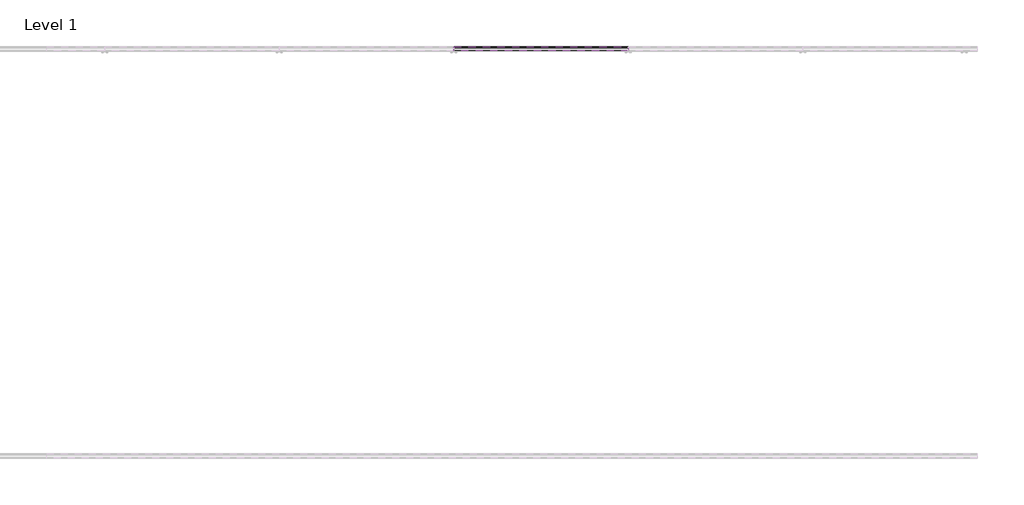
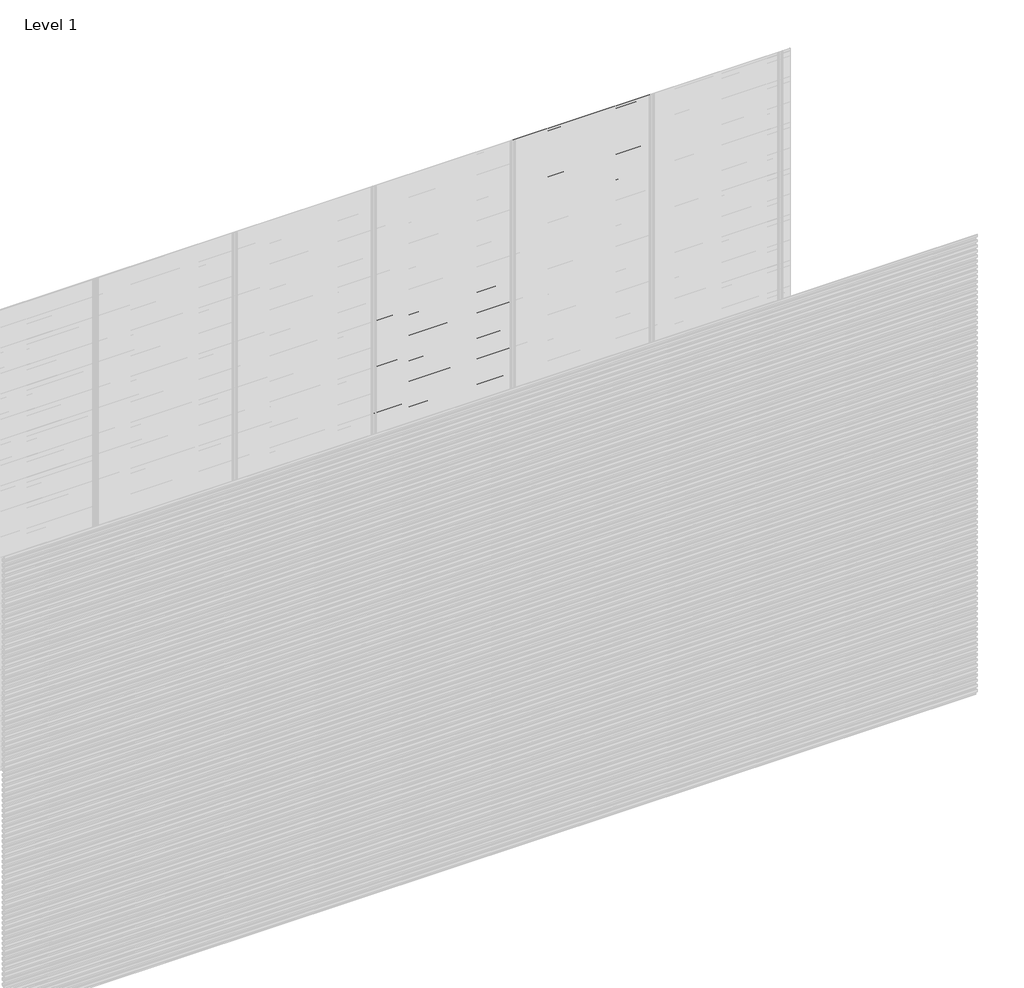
# One storey, part 94 of 96: 82 proxies.
"""IFC4 building model written with IfcOpenShell, lengths in millimetres."""

from ifc_helpers import new_model, si_unit, frame, origin, place, context, project, spatial, polyline, outline, extrude, element, save

model = new_model("IFC4")

# Units and contexts
model_context = context("Model", 3, world=origin())
ifc_project = project(units=[si_unit("LENGTHUNIT", "METRE", prefix="MILLI")], contexts=[model_context])

# Site, building, storey
site = spatial("IfcSite", under=ifc_project)
building = spatial("IfcBuilding", under=site)
storey = spatial("IfcBuildingStorey", under=building, Name="Level 1", Elevation=0.0)

# Proxies
placement = place(None, origin())
element("IfcBuildingElementProxy", 1, Name="Wall Sweeps", at=placement, inside=storey, context=model_context, shape_type="SweptSolid", body=[
    extrude(outline(polyline([(22.4, 2105.9655033), (22.4, 2091.6779188), (17.5885035, 2088.9), (17.5885035, 2090.1701706), (21.15, 2092.2264016), (21.15, 2105.2437382), (2.0, 2116.3000799), (2.0, 2131.2), (3.25, 2131.2), (3.25, 2117.0217609), (22.4, 2105.9655033)])), frame((3428.5714286, 0.0, 0.0), z_axis=(1.0, 0.0, 0.0), x_axis=(0.0, 1.0, 0.0)), (0.0, 0.0, 1.0), 857.1428571),
])
element("IfcBuildingElementProxy", 2, Name="Wall Sweeps", at=placement, inside=storey, context=model_context, shape_type="SweptSolid", body=[
    extrude(outline(polyline([(22.4, 2072.6655033), (22.4, 2058.3779188), (17.5885035, 2055.6), (17.5885035, 2056.8701706), (21.15, 2058.9264016), (21.15, 2071.9437382), (2.0, 2083.0000799), (2.0, 2097.9), (3.25, 2097.9), (3.25, 2083.7217609), (22.4, 2072.6655033)])), frame((3428.5714286, 0.0, 0.0), z_axis=(1.0, 0.0, 0.0), x_axis=(0.0, 1.0, 0.0)), (0.0, 0.0, 1.0), 857.1428571),
])
element("IfcBuildingElementProxy", 3, Name="Wall Sweeps", at=placement, inside=storey, context=model_context, shape_type="SweptSolid", body=[
    extrude(outline(polyline([(22.4, 2039.3655033), (22.4, 2025.0779188), (17.5885035, 2022.3), (17.5885035, 2023.5701706), (21.15, 2025.6264016), (21.15, 2038.6437382), (2.0, 2049.7000799), (2.0, 2064.6), (3.25, 2064.6), (3.25, 2050.4217609), (22.4, 2039.3655033)])), frame((3428.5714286, 0.0, 0.0), z_axis=(1.0, 0.0, 0.0), x_axis=(0.0, 1.0, 0.0)), (0.0, 0.0, 1.0), 857.1428571),
])
element("IfcBuildingElementProxy", 4, Name="Wall Sweeps", at=placement, inside=storey, context=model_context, shape_type="SweptSolid", body=[
    extrude(outline(polyline([(22.4, 2006.0655033), (22.4, 1991.7779188), (17.5885035, 1989.0), (17.5885035, 1990.2701706), (21.15, 1992.3264016), (21.15, 2005.3437382), (2.0, 2016.4000799), (2.0, 2031.3), (3.25, 2031.3), (3.25, 2017.1217609), (22.4, 2006.0655033)])), frame((3428.5714286, 0.0, 0.0), z_axis=(1.0, 0.0, 0.0), x_axis=(0.0, 1.0, 0.0)), (0.0, 0.0, 1.0), 857.1428571),
])
element("IfcBuildingElementProxy", 5, Name="Wall Sweeps", at=placement, inside=storey, context=model_context, shape_type="SweptSolid", body=[
    extrude(outline(polyline([(22.4, 1972.7655033), (22.4, 1958.4779188), (17.5885035, 1955.7), (17.5885035, 1956.9701706), (21.15, 1959.0264016), (21.15, 1972.0437382), (2.0, 1983.1000799), (2.0, 1998.0), (3.25, 1998.0), (3.25, 1983.8217609), (22.4, 1972.7655033)])), frame((3428.5714286, 0.0, 0.0), z_axis=(1.0, 0.0, 0.0), x_axis=(0.0, 1.0, 0.0)), (0.0, 0.0, 1.0), 857.1428571),
])
element("IfcBuildingElementProxy", 6, Name="Wall Sweeps", at=placement, inside=storey, context=model_context, shape_type="SweptSolid", body=[
    extrude(outline(polyline([(22.4, 1939.4655033), (22.4, 1925.1779188), (17.5885035, 1922.4), (17.5885035, 1923.6701706), (21.15, 1925.7264016), (21.15, 1938.7437382), (2.0, 1949.8000799), (2.0, 1964.7), (3.25, 1964.7), (3.25, 1950.5217609), (22.4, 1939.4655033)])), frame((3428.5714286, 0.0, 0.0), z_axis=(1.0, 0.0, 0.0), x_axis=(0.0, 1.0, 0.0)), (0.0, 0.0, 1.0), 857.1428571),
])
element("IfcBuildingElementProxy", 7, Name="Wall Sweeps", at=placement, inside=storey, context=model_context, shape_type="SweptSolid", body=[
    extrude(outline(polyline([(22.4, 1906.1655033), (22.4, 1891.8779188), (17.5885035, 1889.1), (17.5885035, 1890.3701706), (21.15, 1892.4264016), (21.15, 1905.4437382), (2.0, 1916.5000799), (2.0, 1931.4), (3.25, 1931.4), (3.25, 1917.2217609), (22.4, 1906.1655033)])), frame((3428.5714286, 0.0, 0.0), z_axis=(1.0, 0.0, 0.0), x_axis=(0.0, 1.0, 0.0)), (0.0, 0.0, 1.0), 857.1428571),
])
element("IfcBuildingElementProxy", 8, Name="Wall Sweeps", at=placement, inside=storey, context=model_context, shape_type="SweptSolid", body=[
    extrude(outline(polyline([(22.4, 1872.8655033), (22.4, 1858.5779188), (17.5885035, 1855.8), (17.5885035, 1857.0701706), (21.15, 1859.1264016), (21.15, 1872.1437382), (2.0, 1883.2000799), (2.0, 1898.1), (3.25, 1898.1), (3.25, 1883.9217609), (22.4, 1872.8655033)])), frame((3428.5714286, 0.0, 0.0), z_axis=(1.0, 0.0, 0.0), x_axis=(0.0, 1.0, 0.0)), (0.0, 0.0, 1.0), 857.1428571),
])
element("IfcBuildingElementProxy", 9, Name="Wall Sweeps", at=placement, inside=storey, context=model_context, shape_type="SweptSolid", body=[
    extrude(outline(polyline([(22.4, 1839.5655033), (22.4, 1825.2779188), (17.5885035, 1822.5), (17.5885035, 1823.7701706), (21.15, 1825.8264016), (21.15, 1838.8437382), (2.0, 1849.9000799), (2.0, 1864.8), (3.25, 1864.8), (3.25, 1850.6217609), (22.4, 1839.5655033)])), frame((3428.5714286, 0.0, 0.0), z_axis=(1.0, 0.0, 0.0), x_axis=(0.0, 1.0, 0.0)), (0.0, 0.0, 1.0), 857.1428571),
])
element("IfcBuildingElementProxy", 10, Name="Wall Sweeps", at=placement, inside=storey, context=model_context, shape_type="SweptSolid", body=[
    extrude(outline(polyline([(22.4, 1806.2655033), (22.4, 1791.9779188), (17.5885035, 1789.2), (17.5885035, 1790.4701706), (21.15, 1792.5264016), (21.15, 1805.5437382), (2.0, 1816.6000799), (2.0, 1831.5), (3.25, 1831.5), (3.25, 1817.3217609), (22.4, 1806.2655033)])), frame((3428.5714286, 0.0, 0.0), z_axis=(1.0, 0.0, 0.0), x_axis=(0.0, 1.0, 0.0)), (0.0, 0.0, 1.0), 857.1428571),
])
element("IfcBuildingElementProxy", 11, Name="Wall Sweeps", at=placement, inside=storey, context=model_context, shape_type="SweptSolid", body=[
    extrude(outline(polyline([(22.4, 1772.9655033), (22.4, 1758.6779188), (17.5885035, 1755.9), (17.5885035, 1757.1701706), (21.15, 1759.2264016), (21.15, 1772.2437382), (2.0, 1783.3000799), (2.0, 1798.2), (3.25, 1798.2), (3.25, 1784.0217609), (22.4, 1772.9655033)])), frame((3428.5714286, 0.0, 0.0), z_axis=(1.0, 0.0, 0.0), x_axis=(0.0, 1.0, 0.0)), (0.0, 0.0, 1.0), 857.1428571),
])
element("IfcBuildingElementProxy", 12, Name="Wall Sweeps", at=placement, inside=storey, context=model_context, shape_type="SweptSolid", body=[
    extrude(outline(polyline([(22.4, 1739.6655033), (22.4, 1725.3779188), (17.5885035, 1722.6), (17.5885035, 1723.8701706), (21.15, 1725.9264016), (21.15, 1738.9437382), (2.0, 1750.0000799), (2.0, 1764.9), (3.25, 1764.9), (3.25, 1750.7217609), (22.4, 1739.6655033)])), frame((3428.5714286, 0.0, 0.0), z_axis=(1.0, 0.0, 0.0), x_axis=(0.0, 1.0, 0.0)), (0.0, 0.0, 1.0), 857.1428571),
])
element("IfcBuildingElementProxy", 13, Name="Wall Sweeps", at=placement, inside=storey, context=model_context, shape_type="SweptSolid", body=[
    extrude(outline(polyline([(22.4, 1706.3655033), (22.4, 1692.0779188), (17.5885035, 1689.3), (17.5885035, 1690.5701706), (21.15, 1692.6264016), (21.15, 1705.6437382), (2.0, 1716.7000799), (2.0, 1731.6), (3.25, 1731.6), (3.25, 1717.4217609), (22.4, 1706.3655033)])), frame((3428.5714286, 0.0, 0.0), z_axis=(1.0, 0.0, 0.0), x_axis=(0.0, 1.0, 0.0)), (0.0, 0.0, 1.0), 857.1428571),
])
element("IfcBuildingElementProxy", 14, Name="Wall Sweeps", at=placement, inside=storey, context=model_context, shape_type="SweptSolid", body=[
    extrude(outline(polyline([(22.4, 1673.0655033), (22.4, 1658.7779188), (17.5885035, 1656.0), (17.5885035, 1657.2701706), (21.15, 1659.3264016), (21.15, 1672.3437382), (2.0, 1683.4000799), (2.0, 1698.3), (3.25, 1698.3), (3.25, 1684.1217609), (22.4, 1673.0655033)])), frame((3428.5714286, 0.0, 0.0), z_axis=(1.0, 0.0, 0.0), x_axis=(0.0, 1.0, 0.0)), (0.0, 0.0, 1.0), 857.1428571),
])
element("IfcBuildingElementProxy", 15, Name="Wall Sweeps", at=placement, inside=storey, context=model_context, shape_type="SweptSolid", body=[
    extrude(outline(polyline([(22.4, 1639.7655033), (22.4, 1625.4779188), (17.5885035, 1622.7), (17.5885035, 1623.9701706), (21.15, 1626.0264016), (21.15, 1639.0437382), (2.0, 1650.1000799), (2.0, 1665.0), (3.25, 1665.0), (3.25, 1650.8217609), (22.4, 1639.7655033)])), frame((3428.5714286, 0.0, 0.0), z_axis=(1.0, 0.0, 0.0), x_axis=(0.0, 1.0, 0.0)), (0.0, 0.0, 1.0), 857.1428571),
])
element("IfcBuildingElementProxy", 16, Name="Wall Sweeps", at=placement, inside=storey, context=model_context, shape_type="SweptSolid", body=[
    extrude(outline(polyline([(22.4, 1606.4655033), (22.4, 1592.1779188), (17.5885035, 1589.4), (17.5885035, 1590.6701706), (21.15, 1592.7264016), (21.15, 1605.7437382), (2.0, 1616.8000799), (2.0, 1631.7), (3.25, 1631.7), (3.25, 1617.5217609), (22.4, 1606.4655033)])), frame((3428.5714286, 0.0, 0.0), z_axis=(1.0, 0.0, 0.0), x_axis=(0.0, 1.0, 0.0)), (0.0, 0.0, 1.0), 857.1428571),
])
element("IfcBuildingElementProxy", 17, Name="Wall Sweeps", at=placement, inside=storey, context=model_context, shape_type="SweptSolid", body=[
    extrude(outline(polyline([(22.4, 1573.1655033), (22.4, 1558.8779188), (17.5885035, 1556.1), (17.5885035, 1557.3701706), (21.15, 1559.4264016), (21.15, 1572.4437382), (2.0, 1583.5000799), (2.0, 1598.4), (3.25, 1598.4), (3.25, 1584.2217609), (22.4, 1573.1655033)])), frame((3428.5714286, 0.0, 0.0), z_axis=(1.0, 0.0, 0.0), x_axis=(0.0, 1.0, 0.0)), (0.0, 0.0, 1.0), 857.1428571),
])
element("IfcBuildingElementProxy", 18, Name="Wall Sweeps", at=placement, inside=storey, context=model_context, shape_type="SweptSolid", body=[
    extrude(outline(polyline([(22.4, 1539.8655033), (22.4, 1525.5779188), (17.5885035, 1522.8), (17.5885035, 1524.0701706), (21.15, 1526.1264016), (21.15, 1539.1437382), (2.0, 1550.2000799), (2.0, 1565.1), (3.25, 1565.1), (3.25, 1550.9217609), (22.4, 1539.8655033)])), frame((3428.5714286, 0.0, 0.0), z_axis=(1.0, 0.0, 0.0), x_axis=(0.0, 1.0, 0.0)), (0.0, 0.0, 1.0), 857.1428571),
])
element("IfcBuildingElementProxy", 19, Name="Wall Sweeps", at=placement, inside=storey, context=model_context, shape_type="SweptSolid", body=[
    extrude(outline(polyline([(22.4, 1506.5655033), (22.4, 1492.2779188), (17.5885035, 1489.5), (17.5885035, 1490.7701706), (21.15, 1492.8264016), (21.15, 1505.8437382), (2.0, 1516.9000799), (2.0, 1531.8), (3.25, 1531.8), (3.25, 1517.6217609), (22.4, 1506.5655033)])), frame((3428.5714286, 0.0, 0.0), z_axis=(1.0, 0.0, 0.0), x_axis=(0.0, 1.0, 0.0)), (0.0, 0.0, 1.0), 857.1428571),
])
element("IfcBuildingElementProxy", 20, Name="Wall Sweeps", at=placement, inside=storey, context=model_context, shape_type="SweptSolid", body=[
    extrude(outline(polyline([(22.4, 1473.2655033), (22.4, 1458.9779188), (17.5885035, 1456.2), (17.5885035, 1457.4701706), (21.15, 1459.5264016), (21.15, 1472.5437382), (2.0, 1483.6000799), (2.0, 1498.5), (3.25, 1498.5), (3.25, 1484.3217609), (22.4, 1473.2655033)])), frame((3428.5714286, 0.0, 0.0), z_axis=(1.0, 0.0, 0.0), x_axis=(0.0, 1.0, 0.0)), (0.0, 0.0, 1.0), 857.1428571),
])
element("IfcBuildingElementProxy", 21, Name="Wall Sweeps", at=placement, inside=storey, context=model_context, shape_type="SweptSolid", body=[
    extrude(outline(polyline([(22.4, 1439.9655033), (22.4, 1425.6779188), (17.5885035, 1422.9), (17.5885035, 1424.1701706), (21.15, 1426.2264016), (21.15, 1439.2437382), (2.0, 1450.3000799), (2.0, 1465.2), (3.25, 1465.2), (3.25, 1451.0217609), (22.4, 1439.9655033)])), frame((3428.5714286, 0.0, 0.0), z_axis=(1.0, 0.0, 0.0), x_axis=(0.0, 1.0, 0.0)), (0.0, 0.0, 1.0), 857.1428571),
])
element("IfcBuildingElementProxy", 22, Name="Wall Sweeps", at=placement, inside=storey, context=model_context, shape_type="SweptSolid", body=[
    extrude(outline(polyline([(22.4, 1406.6655033), (22.4, 1392.3779188), (17.5885035, 1389.6), (17.5885035, 1390.8701706), (21.15, 1392.9264016), (21.15, 1405.9437382), (2.0, 1417.0000799), (2.0, 1431.9), (3.25, 1431.9), (3.25, 1417.7217609), (22.4, 1406.6655033)])), frame((3428.5714286, 0.0, 0.0), z_axis=(1.0, 0.0, 0.0), x_axis=(0.0, 1.0, 0.0)), (0.0, 0.0, 1.0), 857.1428571),
])
element("IfcBuildingElementProxy", 23, Name="Wall Sweeps", at=placement, inside=storey, context=model_context, shape_type="SweptSolid", body=[
    extrude(outline(polyline([(22.4, 1373.3655033), (22.4, 1359.0779188), (17.5885035, 1356.3), (17.5885035, 1357.5701706), (21.15, 1359.6264016), (21.15, 1372.6437382), (2.0, 1383.7000799), (2.0, 1398.6), (3.25, 1398.6), (3.25, 1384.4217609), (22.4, 1373.3655033)])), frame((3428.5714286, 0.0, 0.0), z_axis=(1.0, 0.0, 0.0), x_axis=(0.0, 1.0, 0.0)), (0.0, 0.0, 1.0), 857.1428571),
])
element("IfcBuildingElementProxy", 24, Name="Wall Sweeps", at=placement, inside=storey, context=model_context, shape_type="SweptSolid", body=[
    extrude(outline(polyline([(22.4, 1340.0655033), (22.4, 1325.7779188), (17.5885035, 1323.0), (17.5885035, 1324.2701706), (21.15, 1326.3264016), (21.15, 1339.3437382), (2.0, 1350.4000799), (2.0, 1365.3), (3.25, 1365.3), (3.25, 1351.1217609), (22.4, 1340.0655033)])), frame((3428.5714286, 0.0, 0.0), z_axis=(1.0, 0.0, 0.0), x_axis=(0.0, 1.0, 0.0)), (0.0, 0.0, 1.0), 857.1428571),
])
element("IfcBuildingElementProxy", 25, Name="Wall Sweeps", at=placement, inside=storey, context=model_context, shape_type="SweptSolid", body=[
    extrude(outline(polyline([(22.4, 1306.7655033), (22.4, 1292.4779188), (17.5885035, 1289.7), (17.5885035, 1290.9701706), (21.15, 1293.0264016), (21.15, 1306.0437382), (2.0, 1317.1000799), (2.0, 1332.0), (3.25, 1332.0), (3.25, 1317.8217609), (22.4, 1306.7655033)])), frame((3428.5714286, 0.0, 0.0), z_axis=(1.0, 0.0, 0.0), x_axis=(0.0, 1.0, 0.0)), (0.0, 0.0, 1.0), 857.1428571),
])
element("IfcBuildingElementProxy", 26, Name="Wall Sweeps", at=placement, inside=storey, context=model_context, shape_type="SweptSolid", body=[
    extrude(outline(polyline([(22.4, 1273.4655033), (22.4, 1259.1779188), (17.5885035, 1256.4), (17.5885035, 1257.6701706), (21.15, 1259.7264016), (21.15, 1272.7437382), (2.0, 1283.8000799), (2.0, 1298.7), (3.25, 1298.7), (3.25, 1284.5217609), (22.4, 1273.4655033)])), frame((3428.5714286, 0.0, 0.0), z_axis=(1.0, 0.0, 0.0), x_axis=(0.0, 1.0, 0.0)), (0.0, 0.0, 1.0), 857.1428571),
])
element("IfcBuildingElementProxy", 27, Name="Wall Sweeps", at=placement, inside=storey, context=model_context, shape_type="SweptSolid", body=[
    extrude(outline(polyline([(22.4, 1240.1655033), (22.4, 1225.8779188), (17.5885035, 1223.1), (17.5885035, 1224.3701706), (21.15, 1226.4264016), (21.15, 1239.4437382), (2.0, 1250.5000799), (2.0, 1265.4), (3.25, 1265.4), (3.25, 1251.2217609), (22.4, 1240.1655033)])), frame((3428.5714286, 0.0, 0.0), z_axis=(1.0, 0.0, 0.0), x_axis=(0.0, 1.0, 0.0)), (0.0, 0.0, 1.0), 857.1428571),
])
element("IfcBuildingElementProxy", 28, Name="Wall Sweeps", at=placement, inside=storey, context=model_context, shape_type="SweptSolid", body=[
    extrude(outline(polyline([(22.4, 1206.8655033), (22.4, 1192.5779188), (17.5885035, 1189.8), (17.5885035, 1191.0701706), (21.15, 1193.1264016), (21.15, 1206.1437382), (2.0, 1217.2000799), (2.0, 1232.1), (3.25, 1232.1), (3.25, 1217.9217609), (22.4, 1206.8655033)])), frame((3428.5714286, 0.0, 0.0), z_axis=(1.0, 0.0, 0.0), x_axis=(0.0, 1.0, 0.0)), (0.0, 0.0, 1.0), 857.1428571),
])
element("IfcBuildingElementProxy", 29, Name="Wall Sweeps", at=placement, inside=storey, context=model_context, shape_type="SweptSolid", body=[
    extrude(outline(polyline([(22.4, 1173.5655033), (22.4, 1159.2779188), (17.5885035, 1156.5), (17.5885035, 1157.7701706), (21.15, 1159.8264016), (21.15, 1172.8437382), (2.0, 1183.9000799), (2.0, 1198.8), (3.25, 1198.8), (3.25, 1184.6217609), (22.4, 1173.5655033)])), frame((3428.5714286, 0.0, 0.0), z_axis=(1.0, 0.0, 0.0), x_axis=(0.0, 1.0, 0.0)), (0.0, 0.0, 1.0), 857.1428571),
])
element("IfcBuildingElementProxy", 30, Name="Wall Sweeps", at=placement, inside=storey, context=model_context, shape_type="SweptSolid", body=[
    extrude(outline(polyline([(22.4, 1140.2655033), (22.4, 1125.9779188), (17.5885035, 1123.2), (17.5885035, 1124.4701706), (21.15, 1126.5264016), (21.15, 1139.5437382), (2.0, 1150.6000799), (2.0, 1165.5), (3.25, 1165.5), (3.25, 1151.3217609), (22.4, 1140.2655033)])), frame((3428.5714286, 0.0, 0.0), z_axis=(1.0, 0.0, 0.0), x_axis=(0.0, 1.0, 0.0)), (0.0, 0.0, 1.0), 857.1428571),
])
element("IfcBuildingElementProxy", 31, Name="Wall Sweeps", at=placement, inside=storey, context=model_context, shape_type="SweptSolid", body=[
    extrude(outline(polyline([(22.4, 1106.9655033), (22.4, 1092.6779188), (17.5885035, 1089.9), (17.5885035, 1091.1701706), (21.15, 1093.2264016), (21.15, 1106.2437382), (2.0, 1117.3000799), (2.0, 1132.2), (3.25, 1132.2), (3.25, 1118.0217609), (22.4, 1106.9655033)])), frame((3428.5714286, 0.0, 0.0), z_axis=(1.0, 0.0, 0.0), x_axis=(0.0, 1.0, 0.0)), (0.0, 0.0, 1.0), 857.1428571),
])
element("IfcBuildingElementProxy", 32, Name="Wall Sweeps", at=placement, inside=storey, context=model_context, shape_type="SweptSolid", body=[
    extrude(outline(polyline([(22.4, 1073.6655033), (22.4, 1059.3779188), (17.5885035, 1056.6), (17.5885035, 1057.8701706), (21.15, 1059.9264016), (21.15, 1072.9437382), (2.0, 1084.0000799), (2.0, 1098.9), (3.25, 1098.9), (3.25, 1084.7217609), (22.4, 1073.6655033)])), frame((3428.5714286, 0.0, 0.0), z_axis=(1.0, 0.0, 0.0), x_axis=(0.0, 1.0, 0.0)), (0.0, 0.0, 1.0), 857.1428571),
])
element("IfcBuildingElementProxy", 33, Name="Wall Sweeps", at=placement, inside=storey, context=model_context, shape_type="SweptSolid", body=[
    extrude(outline(polyline([(22.4, 1040.3655033), (22.4, 1026.0779188), (17.5885035, 1023.3), (17.5885035, 1024.5701706), (21.15, 1026.6264016), (21.15, 1039.6437382), (2.0, 1050.7000799), (2.0, 1065.6), (3.25, 1065.6), (3.25, 1051.4217609), (22.4, 1040.3655033)])), frame((3428.5714286, 0.0, 0.0), z_axis=(1.0, 0.0, 0.0), x_axis=(0.0, 1.0, 0.0)), (0.0, 0.0, 1.0), 857.1428571),
])
element("IfcBuildingElementProxy", 34, Name="Wall Sweeps", at=placement, inside=storey, context=model_context, shape_type="SweptSolid", body=[
    extrude(outline(polyline([(22.4, 1007.0655033), (22.4, 992.7779188), (17.5885035, 990.0), (17.5885035, 991.2701706), (21.15, 993.3264016), (21.15, 1006.3437382), (2.0, 1017.4000799), (2.0, 1032.3), (3.25, 1032.3), (3.25, 1018.1217609), (22.4, 1007.0655033)])), frame((3428.5714286, 0.0, 0.0), z_axis=(1.0, 0.0, 0.0), x_axis=(0.0, 1.0, 0.0)), (0.0, 0.0, 1.0), 857.1428571),
])
element("IfcBuildingElementProxy", 35, Name="Wall Sweeps", at=placement, inside=storey, context=model_context, shape_type="SweptSolid", body=[
    extrude(outline(polyline([(22.4, 973.7655033), (22.4, 959.4779188), (17.5885035, 956.7), (17.5885035, 957.9701706), (21.15, 960.0264016), (21.15, 973.0437382), (2.0, 984.1000799), (2.0, 999.0), (3.25, 999.0), (3.25, 984.8217609), (22.4, 973.7655033)])), frame((3428.5714286, 0.0, 0.0), z_axis=(1.0, 0.0, 0.0), x_axis=(0.0, 1.0, 0.0)), (0.0, 0.0, 1.0), 857.1428571),
])
element("IfcBuildingElementProxy", 36, Name="Wall Sweeps", at=placement, inside=storey, context=model_context, shape_type="SweptSolid", body=[
    extrude(outline(polyline([(22.4, 940.4655033), (22.4, 926.1779188), (17.5885035, 923.4), (17.5885035, 924.6701706), (21.15, 926.7264016), (21.15, 939.7437382), (2.0, 950.8000799), (2.0, 965.7), (3.25, 965.7), (3.25, 951.5217609), (22.4, 940.4655033)])), frame((3428.5714286, 0.0, 0.0), z_axis=(1.0, 0.0, 0.0), x_axis=(0.0, 1.0, 0.0)), (0.0, 0.0, 1.0), 857.1428571),
])
element("IfcBuildingElementProxy", 37, Name="Wall Sweeps", at=placement, inside=storey, context=model_context, shape_type="SweptSolid", body=[
    extrude(outline(polyline([(22.4, 907.1655033), (22.4, 892.8779188), (17.5885035, 890.1), (17.5885035, 891.3701706), (21.15, 893.4264016), (21.15, 906.4437382), (2.0, 917.5000799), (2.0, 932.4), (3.25, 932.4), (3.25, 918.2217609), (22.4, 907.1655033)])), frame((3428.5714286, 0.0, 0.0), z_axis=(1.0, 0.0, 0.0), x_axis=(0.0, 1.0, 0.0)), (0.0, 0.0, 1.0), 857.1428571),
])
element("IfcBuildingElementProxy", 38, Name="Wall Sweeps", at=placement, inside=storey, context=model_context, shape_type="SweptSolid", body=[
    extrude(outline(polyline([(22.4, 873.8655033), (22.4, 859.5779188), (17.5885035, 856.8), (17.5885035, 858.0701706), (21.15, 860.1264016), (21.15, 873.1437382), (2.0, 884.2000799), (2.0, 899.1), (3.25, 899.1), (3.25, 884.9217609), (22.4, 873.8655033)])), frame((3428.5714286, 0.0, 0.0), z_axis=(1.0, 0.0, 0.0), x_axis=(0.0, 1.0, 0.0)), (0.0, 0.0, 1.0), 857.1428571),
])
element("IfcBuildingElementProxy", 39, Name="Wall Sweeps", at=placement, inside=storey, context=model_context, shape_type="SweptSolid", body=[
    extrude(outline(polyline([(22.4, 840.5655033), (22.4, 826.2779188), (17.5885035, 823.5), (17.5885035, 824.7701706), (21.15, 826.8264016), (21.15, 839.8437382), (2.0, 850.9000799), (2.0, 865.8), (3.25, 865.8), (3.25, 851.6217609), (22.4, 840.5655033)])), frame((3428.5714286, 0.0, 0.0), z_axis=(1.0, 0.0, 0.0), x_axis=(0.0, 1.0, 0.0)), (0.0, 0.0, 1.0), 857.1428571),
])
element("IfcBuildingElementProxy", 40, Name="Wall Sweeps", at=placement, inside=storey, context=model_context, shape_type="SweptSolid", body=[
    extrude(outline(polyline([(22.4, 807.2655033), (22.4, 792.9779188), (17.5885035, 790.2), (17.5885035, 791.4701706), (21.15, 793.5264016), (21.15, 806.5437382), (2.0, 817.6000799), (2.0, 832.5), (3.25, 832.5), (3.25, 818.3217609), (22.4, 807.2655033)])), frame((3428.5714286, 0.0, 0.0), z_axis=(1.0, 0.0, 0.0), x_axis=(0.0, 1.0, 0.0)), (0.0, 0.0, 1.0), 857.1428571),
])
element("IfcBuildingElementProxy", 41, Name="Wall Sweeps", at=placement, inside=storey, context=model_context, shape_type="SweptSolid", body=[
    extrude(outline(polyline([(22.4, 773.9655033), (22.4, 759.6779188), (17.5885035, 756.9), (17.5885035, 758.1701706), (21.15, 760.2264016), (21.15, 773.2437382), (2.0, 784.3000799), (2.0, 799.2), (3.25, 799.2), (3.25, 785.0217609), (22.4, 773.9655033)])), frame((3428.5714286, 0.0, 0.0), z_axis=(1.0, 0.0, 0.0), x_axis=(0.0, 1.0, 0.0)), (0.0, 0.0, 1.0), 857.1428571),
])
element("IfcBuildingElementProxy", 42, Name="Wall Sweeps", at=placement, inside=storey, context=model_context, shape_type="SweptSolid", body=[
    extrude(outline(polyline([(22.4, 740.6655033), (22.4, 726.3779188), (17.5885035, 723.6), (17.5885035, 724.8701706), (21.15, 726.9264016), (21.15, 739.9437382), (2.0, 751.0000799), (2.0, 765.9), (3.25, 765.9), (3.25, 751.7217609), (22.4, 740.6655033)])), frame((3428.5714286, 0.0, 0.0), z_axis=(1.0, 0.0, 0.0), x_axis=(0.0, 1.0, 0.0)), (0.0, 0.0, 1.0), 857.1428571),
])
element("IfcBuildingElementProxy", 43, Name="Wall Sweeps", at=placement, inside=storey, context=model_context, shape_type="SweptSolid", body=[
    extrude(outline(polyline([(22.4, 707.3655033), (22.4, 693.0779188), (17.5885035, 690.3), (17.5885035, 691.5701706), (21.15, 693.6264016), (21.15, 706.6437382), (2.0, 717.7000799), (2.0, 732.6), (3.25, 732.6), (3.25, 718.4217609), (22.4, 707.3655033)])), frame((3428.5714286, 0.0, 0.0), z_axis=(1.0, 0.0, 0.0), x_axis=(0.0, 1.0, 0.0)), (0.0, 0.0, 1.0), 857.1428571),
])
element("IfcBuildingElementProxy", 44, Name="Wall Sweeps", at=placement, inside=storey, context=model_context, shape_type="SweptSolid", body=[
    extrude(outline(polyline([(22.4, 674.0655033), (22.4, 659.7779188), (17.5885035, 657.0), (17.5885035, 658.2701706), (21.15, 660.3264016), (21.15, 673.3437382), (2.0, 684.4000799), (2.0, 699.3), (3.25, 699.3), (3.25, 685.1217609), (22.4, 674.0655033)])), frame((3428.5714286, 0.0, 0.0), z_axis=(1.0, 0.0, 0.0), x_axis=(0.0, 1.0, 0.0)), (0.0, 0.0, 1.0), 857.1428571),
])
element("IfcBuildingElementProxy", 45, Name="Wall Sweeps", at=placement, inside=storey, context=model_context, shape_type="SweptSolid", body=[
    extrude(outline(polyline([(22.4, 640.7655033), (22.4, 626.4779188), (17.5885035, 623.7), (17.5885035, 624.9701706), (21.15, 627.0264016), (21.15, 640.0437382), (2.0, 651.1000799), (2.0, 666.0), (3.25, 666.0), (3.25, 651.8217609), (22.4, 640.7655033)])), frame((3428.5714286, 0.0, 0.0), z_axis=(1.0, 0.0, 0.0), x_axis=(0.0, 1.0, 0.0)), (0.0, 0.0, 1.0), 857.1428571),
])
element("IfcBuildingElementProxy", 46, Name="Wall Sweeps", at=placement, inside=storey, context=model_context, shape_type="SweptSolid", body=[
    extrude(outline(polyline([(22.4, 607.4655033), (22.4, 593.1779188), (17.5885035, 590.4), (17.5885035, 591.6701706), (21.15, 593.7264016), (21.15, 606.7437382), (2.0, 617.8000799), (2.0, 632.7), (3.25, 632.7), (3.25, 618.5217609), (22.4, 607.4655033)])), frame((3428.5714286, 0.0, 0.0), z_axis=(1.0, 0.0, 0.0), x_axis=(0.0, 1.0, 0.0)), (0.0, 0.0, 1.0), 857.1428571),
])
element("IfcBuildingElementProxy", 47, Name="Wall Sweeps", at=placement, inside=storey, context=model_context, shape_type="SweptSolid", body=[
    extrude(outline(polyline([(22.4, 574.1655033), (22.4, 559.8779188), (17.5885035, 557.1), (17.5885035, 558.3701706), (21.15, 560.4264016), (21.15, 573.4437382), (2.0, 584.5000799), (2.0, 599.4), (3.25, 599.4), (3.25, 585.2217609), (22.4, 574.1655033)])), frame((3428.5714286, 0.0, 0.0), z_axis=(1.0, 0.0, 0.0), x_axis=(0.0, 1.0, 0.0)), (0.0, 0.0, 1.0), 857.1428571),
])
element("IfcBuildingElementProxy", 48, Name="Wall Sweeps", at=placement, inside=storey, context=model_context, shape_type="SweptSolid", body=[
    extrude(outline(polyline([(22.4, 540.8655033), (22.4, 526.5779188), (17.5885035, 523.8), (17.5885035, 525.0701706), (21.15, 527.1264016), (21.15, 540.1437382), (2.0, 551.2000799), (2.0, 566.1), (3.25, 566.1), (3.25, 551.9217609), (22.4, 540.8655033)])), frame((3428.5714286, 0.0, 0.0), z_axis=(1.0, 0.0, 0.0), x_axis=(0.0, 1.0, 0.0)), (0.0, 0.0, 1.0), 857.1428571),
])
element("IfcBuildingElementProxy", 49, Name="Wall Sweeps", at=placement, inside=storey, context=model_context, shape_type="SweptSolid", body=[
    extrude(outline(polyline([(22.4, 507.5655033), (22.4, 493.2779188), (17.5885035, 490.5), (17.5885035, 491.7701706), (21.15, 493.8264016), (21.15, 506.8437382), (2.0, 517.9000799), (2.0, 532.8), (3.25, 532.8), (3.25, 518.6217609), (22.4, 507.5655033)])), frame((3428.5714286, 0.0, 0.0), z_axis=(1.0, 0.0, 0.0), x_axis=(0.0, 1.0, 0.0)), (0.0, 0.0, 1.0), 857.1428571),
])
element("IfcBuildingElementProxy", 50, Name="Wall Sweeps", at=placement, inside=storey, context=model_context, shape_type="SweptSolid", body=[
    extrude(outline(polyline([(22.4, 474.2655033), (22.4, 459.9779188), (17.5885035, 457.2), (17.5885035, 458.4701706), (21.15, 460.5264016), (21.15, 473.5437382), (2.0, 484.6000799), (2.0, 499.5), (3.25, 499.5), (3.25, 485.3217609), (22.4, 474.2655033)])), frame((3428.5714286, 0.0, 0.0), z_axis=(1.0, 0.0, 0.0), x_axis=(0.0, 1.0, 0.0)), (0.0, 0.0, 1.0), 857.1428571),
])
element("IfcBuildingElementProxy", 51, Name="Wall Sweeps", at=placement, inside=storey, context=model_context, shape_type="SweptSolid", body=[
    extrude(outline(polyline([(22.4, 440.9655033), (22.4, 426.6779188), (17.5885035, 423.9), (17.5885035, 425.1701706), (21.15, 427.2264016), (21.15, 440.2437382), (2.0, 451.3000799), (2.0, 466.2), (3.25, 466.2), (3.25, 452.0217609), (22.4, 440.9655033)])), frame((3428.5714286, 0.0, 0.0), z_axis=(1.0, 0.0, 0.0), x_axis=(0.0, 1.0, 0.0)), (0.0, 0.0, 1.0), 857.1428571),
])
element("IfcBuildingElementProxy", 52, Name="Wall Sweeps", at=placement, inside=storey, context=model_context, shape_type="SweptSolid", body=[
    extrude(outline(polyline([(22.4, 407.6655033), (22.4, 393.3779188), (17.5885035, 390.6), (17.5885035, 391.8701706), (21.15, 393.9264016), (21.15, 406.9437382), (2.0, 418.0000799), (2.0, 432.9), (3.25, 432.9), (3.25, 418.7217609), (22.4, 407.6655033)])), frame((3428.5714286, 0.0, 0.0), z_axis=(1.0, 0.0, 0.0), x_axis=(0.0, 1.0, 0.0)), (0.0, 0.0, 1.0), 857.1428571),
])
element("IfcBuildingElementProxy", 53, Name="Wall Sweeps", at=placement, inside=storey, context=model_context, shape_type="SweptSolid", body=[
    extrude(outline(polyline([(22.4, 374.3655033), (22.4, 360.0779188), (17.5885035, 357.3), (17.5885035, 358.5701706), (21.15, 360.6264016), (21.15, 373.6437382), (2.0, 384.7000799), (2.0, 399.6), (3.25, 399.6), (3.25, 385.4217609), (22.4, 374.3655033)])), frame((3428.5714286, 0.0, 0.0), z_axis=(1.0, 0.0, 0.0), x_axis=(0.0, 1.0, 0.0)), (0.0, 0.0, 1.0), 857.1428571),
])
element("IfcBuildingElementProxy", 54, Name="Wall Sweeps", at=placement, inside=storey, context=model_context, shape_type="SweptSolid", body=[
    extrude(outline(polyline([(22.4, 341.0655033), (22.4, 326.7779188), (17.5885035, 324.0), (17.5885035, 325.2701706), (21.15, 327.3264016), (21.15, 340.3437382), (2.0, 351.4000799), (2.0, 366.3), (3.25, 366.3), (3.25, 352.1217609), (22.4, 341.0655033)])), frame((3428.5714286, 0.0, 0.0), z_axis=(1.0, 0.0, 0.0), x_axis=(0.0, 1.0, 0.0)), (0.0, 0.0, 1.0), 857.1428571),
])
element("IfcBuildingElementProxy", 55, Name="Wall Sweeps", at=placement, inside=storey, context=model_context, shape_type="SweptSolid", body=[
    extrude(outline(polyline([(22.4, 307.7655033), (22.4, 293.4779188), (17.5885035, 290.7), (17.5885035, 291.9701706), (21.15, 294.0264016), (21.15, 307.0437382), (2.0, 318.1000799), (2.0, 333.0), (3.25, 333.0), (3.25, 318.8217609), (22.4, 307.7655033)])), frame((3428.5714286, 0.0, 0.0), z_axis=(1.0, 0.0, 0.0), x_axis=(0.0, 1.0, 0.0)), (0.0, 0.0, 1.0), 857.1428571),
])
element("IfcBuildingElementProxy", 56, Name="Wall Sweeps", at=placement, inside=storey, context=model_context, shape_type="SweptSolid", body=[
    extrude(outline(polyline([(22.4, 274.4655033), (22.4, 260.1779188), (17.5885035, 257.4), (17.5885035, 258.6701706), (21.15, 260.7264016), (21.15, 273.7437382), (2.0, 284.8000799), (2.0, 299.7), (3.25, 299.7), (3.25, 285.5217609), (22.4, 274.4655033)])), frame((3428.5714286, 0.0, 0.0), z_axis=(1.0, 0.0, 0.0), x_axis=(0.0, 1.0, 0.0)), (0.0, 0.0, 1.0), 857.1428571),
])
element("IfcBuildingElementProxy", 57, Name="Wall Sweeps", at=placement, inside=storey, context=model_context, shape_type="SweptSolid", body=[
    extrude(outline(polyline([(22.4, 241.1655033), (22.4, 226.8779188), (17.5885035, 224.1), (17.5885035, 225.3701706), (21.15, 227.4264016), (21.15, 240.4437382), (2.0, 251.5000799), (2.0, 266.4), (3.25, 266.4), (3.25, 252.2217609), (22.4, 241.1655033)])), frame((3428.5714286, 0.0, 0.0), z_axis=(1.0, 0.0, 0.0), x_axis=(0.0, 1.0, 0.0)), (0.0, 0.0, 1.0), 857.1428571),
])
element("IfcBuildingElementProxy", 58, Name="Wall Sweeps", at=placement, inside=storey, context=model_context, shape_type="SweptSolid", body=[
    extrude(outline(polyline([(22.4, 207.8655033), (22.4, 193.5779188), (17.5885035, 190.8), (17.5885035, 192.0701706), (21.15, 194.1264016), (21.15, 207.1437382), (2.0, 218.2000799), (2.0, 233.1), (3.25, 233.1), (3.25, 218.9217609), (22.4, 207.8655033)])), frame((3428.5714286, 0.0, 0.0), z_axis=(1.0, 0.0, 0.0), x_axis=(0.0, 1.0, 0.0)), (0.0, 0.0, 1.0), 857.1428571),
])
element("IfcBuildingElementProxy", 59, Name="Wall Sweeps", at=placement, inside=storey, context=model_context, shape_type="SweptSolid", body=[
    extrude(outline(polyline([(22.4, 174.5655033), (22.4, 160.2779188), (17.5885035, 157.5), (17.5885035, 158.7701706), (21.15, 160.8264016), (21.15, 173.8437382), (2.0, 184.9000799), (2.0, 199.8), (3.25, 199.8), (3.25, 185.6217609), (22.4, 174.5655033)])), frame((3428.5714286, 0.0, 0.0), z_axis=(1.0, 0.0, 0.0), x_axis=(0.0, 1.0, 0.0)), (0.0, 0.0, 1.0), 857.1428571),
])
element("IfcBuildingElementProxy", 60, Name="Wall Sweeps", at=placement, inside=storey, context=model_context, shape_type="SweptSolid", body=[
    extrude(outline(polyline([(22.4, 141.2655033), (22.4, 126.9779188), (17.5885035, 124.2), (17.5885035, 125.4701706), (21.15, 127.5264016), (21.15, 140.5437382), (2.0, 151.6000799), (2.0, 166.5), (3.25, 166.5), (3.25, 152.3217609), (22.4, 141.2655033)])), frame((3428.5714286, 0.0, 0.0), z_axis=(1.0, 0.0, 0.0), x_axis=(0.0, 1.0, 0.0)), (0.0, 0.0, 1.0), 857.1428571),
])
element("IfcBuildingElementProxy", 61, Name="Wall Sweeps", at=placement, inside=storey, context=model_context, shape_type="SweptSolid", body=[
    extrude(outline(polyline([(22.4, 107.9655033), (22.4, 93.6779188), (17.5885035, 90.9), (17.5885035, 92.1701706), (21.15, 94.2264016), (21.15, 107.2437382), (2.0, 118.3000799), (2.0, 133.2), (3.25, 133.2), (3.25, 119.0217609), (22.4, 107.9655033)])), frame((3428.5714286, 0.0, 0.0), z_axis=(1.0, 0.0, 0.0), x_axis=(0.0, 1.0, 0.0)), (0.0, 0.0, 1.0), 857.1428571),
])
element("IfcBuildingElementProxy", 62, Name="Wall Sweeps", at=placement, inside=storey, context=model_context, shape_type="SweptSolid", body=[
    extrude(outline(polyline([(22.4, 74.6655033), (22.4, 60.3779188), (17.5885035, 57.6), (17.5885035, 58.8701706), (21.15, 60.9264016), (21.15, 73.9437382), (2.0, 85.0000799), (2.0, 99.9), (3.25, 99.9), (3.25, 85.7217609), (22.4, 74.6655033)])), frame((3428.5714286, 0.0, 0.0), z_axis=(1.0, 0.0, 0.0), x_axis=(0.0, 1.0, 0.0)), (0.0, 0.0, 1.0), 857.1428571),
])
element("IfcBuildingElementProxy", 63, Name="Wall Sweeps", at=placement, inside=storey, context=model_context, shape_type="SweptSolid", body=[
    extrude(outline(polyline([(22.4, 41.3655033), (22.4, 27.0779188), (17.5885035, 24.3), (17.5885035, 25.5701706), (21.15, 27.6264016), (21.15, 40.6437382), (2.0, 51.7000799), (2.0, 66.6), (3.25, 66.6), (3.25, 52.4217609), (22.4, 41.3655033)])), frame((3428.5714286, 0.0, 0.0), z_axis=(1.0, 0.0, 0.0), x_axis=(0.0, 1.0, 0.0)), (0.0, 0.0, 1.0), 857.1428571),
])
element("IfcBuildingElementProxy", 64, Name="Wall Sweeps", at=placement, inside=storey, context=model_context, shape_type="SweptSolid", body=[
    extrude(outline(polyline([(22.4, 8.0655033), (22.4, -6.2220812), (17.5885035, -9.0), (17.5885035, -7.7298294), (21.15, -5.6735984), (21.15, 7.3437382), (2.0, 18.4000799), (2.0, 33.3), (3.25, 33.3), (3.25, 19.1217609), (22.4, 8.0655033)])), frame((3428.5714286, 0.0, 0.0), z_axis=(1.0, 0.0, 0.0), x_axis=(0.0, 1.0, 0.0)), (0.0, 0.0, 1.0), 857.1428571),
])
element("IfcBuildingElementProxy", 65, Name="Wall Sweeps", at=placement, inside=storey, context=model_context, shape_type="SweptSolid", body=[
    extrude(outline(polyline([(22.4, 2971.7655033), (22.4, 2957.4779188), (17.5885035, 2954.7), (17.5885035, 2955.9701706), (21.15, 2958.0264016), (21.15, 2971.0437382), (2.0, 2982.1000799), (2.0, 2997.0), (3.25, 2997.0), (3.25, 2982.8217609), (22.4, 2971.7655033)])), frame((4285.7142857, 0.0, 0.0), z_axis=(1.0, 0.0, 0.0), x_axis=(0.0, 1.0, 0.0)), (0.0, 0.0, 1.0), 857.1428571),
])
element("IfcBuildingElementProxy", 66, Name="Wall Sweeps", at=placement, inside=storey, context=model_context, shape_type="SweptSolid", body=[
    extrude(outline(polyline([(22.4, 2938.4655033), (22.4, 2924.1779188), (17.5885035, 2921.4), (17.5885035, 2922.6701706), (21.15, 2924.7264016), (21.15, 2937.7437382), (2.0, 2948.8000799), (2.0, 2963.7), (3.25, 2963.7), (3.25, 2949.5217609), (22.4, 2938.4655033)])), frame((4285.7142857, 0.0, 0.0), z_axis=(1.0, 0.0, 0.0), x_axis=(0.0, 1.0, 0.0)), (0.0, 0.0, 1.0), 857.1428571),
])
element("IfcBuildingElementProxy", 67, Name="Wall Sweeps", at=placement, inside=storey, context=model_context, shape_type="SweptSolid", body=[
    extrude(outline(polyline([(22.4, 2905.1655033), (22.4, 2890.8779188), (17.5885035, 2888.1), (17.5885035, 2889.3701706), (21.15, 2891.4264016), (21.15, 2904.4437382), (2.0, 2915.5000799), (2.0, 2930.4), (3.25, 2930.4), (3.25, 2916.2217609), (22.4, 2905.1655033)])), frame((4285.7142857, 0.0, 0.0), z_axis=(1.0, 0.0, 0.0), x_axis=(0.0, 1.0, 0.0)), (0.0, 0.0, 1.0), 857.1428571),
])
element("IfcBuildingElementProxy", 68, Name="Wall Sweeps", at=placement, inside=storey, context=model_context, shape_type="SweptSolid", body=[
    extrude(outline(polyline([(22.4, 2871.8655033), (22.4, 2857.5779188), (17.5885035, 2854.8), (17.5885035, 2856.0701706), (21.15, 2858.1264016), (21.15, 2871.1437382), (2.0, 2882.2000799), (2.0, 2897.1), (3.25, 2897.1), (3.25, 2882.9217609), (22.4, 2871.8655033)])), frame((4285.7142857, 0.0, 0.0), z_axis=(1.0, 0.0, 0.0), x_axis=(0.0, 1.0, 0.0)), (0.0, 0.0, 1.0), 857.1428571),
])
element("IfcBuildingElementProxy", 69, Name="Wall Sweeps", at=placement, inside=storey, context=model_context, shape_type="SweptSolid", body=[
    extrude(outline(polyline([(22.4, 2838.5655033), (22.4, 2824.2779188), (17.5885035, 2821.5), (17.5885035, 2822.7701706), (21.15, 2824.8264016), (21.15, 2837.8437382), (2.0, 2848.9000799), (2.0, 2863.8), (3.25, 2863.8), (3.25, 2849.6217609), (22.4, 2838.5655033)])), frame((4285.7142857, 0.0, 0.0), z_axis=(1.0, 0.0, 0.0), x_axis=(0.0, 1.0, 0.0)), (0.0, 0.0, 1.0), 857.1428571),
])
element("IfcBuildingElementProxy", 70, Name="Wall Sweeps", at=placement, inside=storey, context=model_context, shape_type="SweptSolid", body=[
    extrude(outline(polyline([(22.4, 2805.2655033), (22.4, 2790.9779188), (17.5885035, 2788.2), (17.5885035, 2789.4701706), (21.15, 2791.5264016), (21.15, 2804.5437382), (2.0, 2815.6000799), (2.0, 2830.5), (3.25, 2830.5), (3.25, 2816.3217609), (22.4, 2805.2655033)])), frame((4285.7142857, 0.0, 0.0), z_axis=(1.0, 0.0, 0.0), x_axis=(0.0, 1.0, 0.0)), (0.0, 0.0, 1.0), 857.1428571),
])
element("IfcBuildingElementProxy", 71, Name="Wall Sweeps", at=placement, inside=storey, context=model_context, shape_type="SweptSolid", body=[
    extrude(outline(polyline([(22.4, 2771.9655033), (22.4, 2757.6779188), (17.5885035, 2754.9), (17.5885035, 2756.1701706), (21.15, 2758.2264016), (21.15, 2771.2437382), (2.0, 2782.3000799), (2.0, 2797.2), (3.25, 2797.2), (3.25, 2783.0217609), (22.4, 2771.9655033)])), frame((4285.7142857, 0.0, 0.0), z_axis=(1.0, 0.0, 0.0), x_axis=(0.0, 1.0, 0.0)), (0.0, 0.0, 1.0), 857.1428571),
])
element("IfcBuildingElementProxy", 72, Name="Wall Sweeps", at=placement, inside=storey, context=model_context, shape_type="SweptSolid", body=[
    extrude(outline(polyline([(22.4, 2738.6655033), (22.4, 2724.3779188), (17.5885035, 2721.6), (17.5885035, 2722.8701706), (21.15, 2724.9264016), (21.15, 2737.9437382), (2.0, 2749.0000799), (2.0, 2763.9), (3.25, 2763.9), (3.25, 2749.7217609), (22.4, 2738.6655033)])), frame((4285.7142857, 0.0, 0.0), z_axis=(1.0, 0.0, 0.0), x_axis=(0.0, 1.0, 0.0)), (0.0, 0.0, 1.0), 857.1428571),
])
element("IfcBuildingElementProxy", 73, Name="Wall Sweeps", at=placement, inside=storey, context=model_context, shape_type="SweptSolid", body=[
    extrude(outline(polyline([(22.4, 2705.3655033), (22.4, 2691.0779188), (17.5885035, 2688.3), (17.5885035, 2689.5701706), (21.15, 2691.6264016), (21.15, 2704.6437382), (2.0, 2715.7000799), (2.0, 2730.6), (3.25, 2730.6), (3.25, 2716.4217609), (22.4, 2705.3655033)])), frame((4285.7142857, 0.0, 0.0), z_axis=(1.0, 0.0, 0.0), x_axis=(0.0, 1.0, 0.0)), (0.0, 0.0, 1.0), 857.1428571),
])
element("IfcBuildingElementProxy", 74, Name="Wall Sweeps", at=placement, inside=storey, context=model_context, shape_type="SweptSolid", body=[
    extrude(outline(polyline([(22.4, 2672.0655033), (22.4, 2657.7779188), (17.5885035, 2655.0), (17.5885035, 2656.2701706), (21.15, 2658.3264016), (21.15, 2671.3437382), (2.0, 2682.4000799), (2.0, 2697.3), (3.25, 2697.3), (3.25, 2683.1217609), (22.4, 2672.0655033)])), frame((4285.7142857, 0.0, 0.0), z_axis=(1.0, 0.0, 0.0), x_axis=(0.0, 1.0, 0.0)), (0.0, 0.0, 1.0), 857.1428571),
])
element("IfcBuildingElementProxy", 75, Name="Wall Sweeps", at=placement, inside=storey, context=model_context, shape_type="SweptSolid", body=[
    extrude(outline(polyline([(22.4, 2638.7655033), (22.4, 2624.4779188), (17.5885035, 2621.7), (17.5885035, 2622.9701706), (21.15, 2625.0264016), (21.15, 2638.0437382), (2.0, 2649.1000799), (2.0, 2664.0), (3.25, 2664.0), (3.25, 2649.8217609), (22.4, 2638.7655033)])), frame((4285.7142857, 0.0, 0.0), z_axis=(1.0, 0.0, 0.0), x_axis=(0.0, 1.0, 0.0)), (0.0, 0.0, 1.0), 857.1428571),
])
element("IfcBuildingElementProxy", 76, Name="Wall Sweeps", at=placement, inside=storey, context=model_context, shape_type="SweptSolid", body=[
    extrude(outline(polyline([(22.4, 2605.4655033), (22.4, 2591.1779188), (17.5885035, 2588.4), (17.5885035, 2589.6701706), (21.15, 2591.7264016), (21.15, 2604.7437382), (2.0, 2615.8000799), (2.0, 2630.7), (3.25, 2630.7), (3.25, 2616.5217609), (22.4, 2605.4655033)])), frame((4285.7142857, 0.0, 0.0), z_axis=(1.0, 0.0, 0.0), x_axis=(0.0, 1.0, 0.0)), (0.0, 0.0, 1.0), 857.1428571),
])
element("IfcBuildingElementProxy", 77, Name="Wall Sweeps", at=placement, inside=storey, context=model_context, shape_type="SweptSolid", body=[
    extrude(outline(polyline([(22.4, 2572.1655033), (22.4, 2557.8779188), (17.5885035, 2555.1), (17.5885035, 2556.3701706), (21.15, 2558.4264016), (21.15, 2571.4437382), (2.0, 2582.5000799), (2.0, 2597.4), (3.25, 2597.4), (3.25, 2583.2217609), (22.4, 2572.1655033)])), frame((4285.7142857, 0.0, 0.0), z_axis=(1.0, 0.0, 0.0), x_axis=(0.0, 1.0, 0.0)), (0.0, 0.0, 1.0), 857.1428571),
])
element("IfcBuildingElementProxy", 78, Name="Wall Sweeps", at=placement, inside=storey, context=model_context, shape_type="SweptSolid", body=[
    extrude(outline(polyline([(22.4, 2538.8655033), (22.4, 2524.5779188), (17.5885035, 2521.8), (17.5885035, 2523.0701706), (21.15, 2525.1264016), (21.15, 2538.1437382), (2.0, 2549.2000799), (2.0, 2564.1), (3.25, 2564.1), (3.25, 2549.9217609), (22.4, 2538.8655033)])), frame((4285.7142857, 0.0, 0.0), z_axis=(1.0, 0.0, 0.0), x_axis=(0.0, 1.0, 0.0)), (0.0, 0.0, 1.0), 857.1428571),
])
element("IfcBuildingElementProxy", 79, Name="Wall Sweeps", at=placement, inside=storey, context=model_context, shape_type="SweptSolid", body=[
    extrude(outline(polyline([(22.4, 2505.5655033), (22.4, 2491.2779188), (17.5885035, 2488.5), (17.5885035, 2489.7701706), (21.15, 2491.8264016), (21.15, 2504.8437382), (2.0, 2515.9000799), (2.0, 2530.8), (3.25, 2530.8), (3.25, 2516.6217609), (22.4, 2505.5655033)])), frame((4285.7142857, 0.0, 0.0), z_axis=(1.0, 0.0, 0.0), x_axis=(0.0, 1.0, 0.0)), (0.0, 0.0, 1.0), 857.1428571),
])
element("IfcBuildingElementProxy", 80, Name="Wall Sweeps", at=placement, inside=storey, context=model_context, shape_type="SweptSolid", body=[
    extrude(outline(polyline([(22.4, 2472.2655033), (22.4, 2457.9779188), (17.5885035, 2455.2), (17.5885035, 2456.4701706), (21.15, 2458.5264016), (21.15, 2471.5437382), (2.0, 2482.6000799), (2.0, 2497.5), (3.25, 2497.5), (3.25, 2483.3217609), (22.4, 2472.2655033)])), frame((4285.7142857, 0.0, 0.0), z_axis=(1.0, 0.0, 0.0), x_axis=(0.0, 1.0, 0.0)), (0.0, 0.0, 1.0), 857.1428571),
])
element("IfcBuildingElementProxy", 81, Name="Wall Sweeps", at=placement, inside=storey, context=model_context, shape_type="SweptSolid", body=[
    extrude(outline(polyline([(22.4, 2438.9655033), (22.4, 2424.6779188), (17.5885035, 2421.9), (17.5885035, 2423.1701706), (21.15, 2425.2264016), (21.15, 2438.2437382), (2.0, 2449.3000799), (2.0, 2464.2), (3.25, 2464.2), (3.25, 2450.0217609), (22.4, 2438.9655033)])), frame((4285.7142857, 0.0, 0.0), z_axis=(1.0, 0.0, 0.0), x_axis=(0.0, 1.0, 0.0)), (0.0, 0.0, 1.0), 857.1428571),
])
element("IfcBuildingElementProxy", 82, Name="Wall Sweeps", at=placement, inside=storey, context=model_context, shape_type="SweptSolid", body=[
    extrude(outline(polyline([(22.4, 2405.6655033), (22.4, 2391.3779188), (17.5885035, 2388.6), (17.5885035, 2389.8701706), (21.15, 2391.9264016), (21.15, 2404.9437382), (2.0, 2416.0000799), (2.0, 2430.9), (3.25, 2430.9), (3.25, 2416.7217609), (22.4, 2405.6655033)])), frame((4285.7142857, 0.0, 0.0), z_axis=(1.0, 0.0, 0.0), x_axis=(0.0, 1.0, 0.0)), (0.0, 0.0, 1.0), 857.1428571),
])

save(model, "model.ifc")
